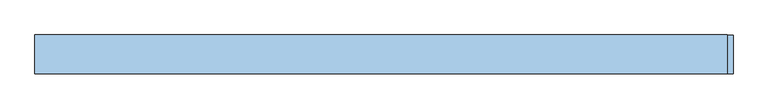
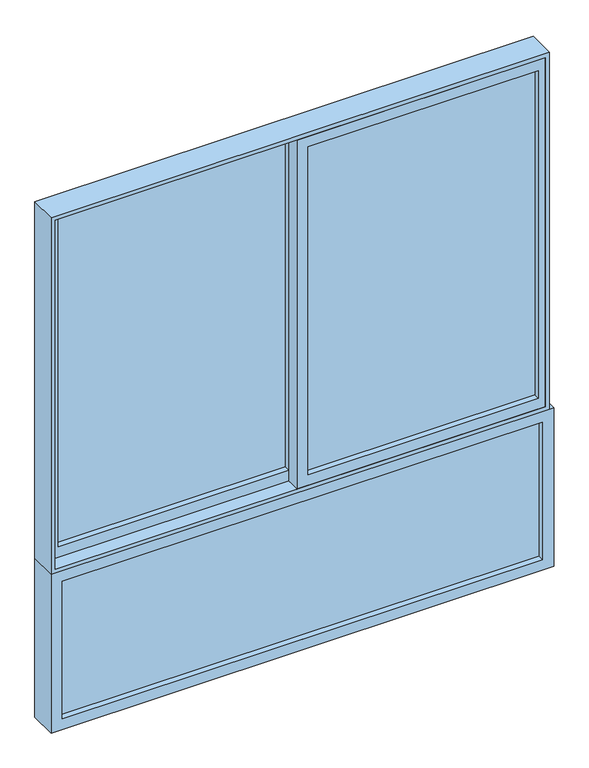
"""IFC4 building model written with IfcOpenShell, lengths in millimetres: window geometry, VENT_ALUM_CORR_2HOJAS_CORRE_1 FIJO ABAJO : V11-VENT_ALUM_CORR_2HOJAS_CORRE 1.0001."""

from ifc_helpers import new_model, si_unit, frame, origin, place, context, project, spatial, polyline, outline, extrude, source, transform, mapped, element, save


def window_36b55308(model_context):
    return source(origin(), model_context, "Body", "SweptSolid", [
        extrude(outline(polyline([(2250.0, -900.0), (900.0, -900.0), (900.0, 885.0), (2250.0, 885.0), (2250.0, -900.0)]), holes=[polyline([(915.0, -885.0), (2235.0, -885.0), (2235.0, 870.0), (915.0, 870.0), (915.0, -885.0)])]), frame((0.0, -50.0, 0.0), z_axis=(0.0, 1.0, 0.0), x_axis=(0.0, 0.0, 1.0)), (0.0, 0.0, 1.0), 100.0),
        extrude(outline(polyline([(-20.0, 28.0), (-20.0, 22.0), (-845.0, 22.0), (-845.0, 28.0), (-20.0, 28.0)])), frame((0.0, 0.0, 955.0), z_axis=(0.0, 0.0, 1.0), x_axis=(1.0, 0.0, 0.0)), (0.0, 0.0, 1.0), 1240.0),
        extrude(outline(polyline([(2235.0, -885.0), (915.0, -885.0), (915.0, 20.0), (2235.0, 20.0), (2235.0, -885.0)]), holes=[polyline([(955.0, -845.0), (2195.0, -845.0), (2195.0, -20.0), (955.0, -20.0), (955.0, -845.0)])]), frame((0.0, 0.0, 0.0), z_axis=(0.0, 1.0, 0.0), x_axis=(0.0, 0.0, 1.0)), (0.0, 0.0, 1.0), 50.0),
        extrude(outline(polyline([(20.0, -28.0), (20.0, -22.0), (845.0, -22.0), (845.0, -28.0), (20.0, -28.0)])), frame((0.0, 0.0, 955.0), z_axis=(0.0, 0.0, 1.0), x_axis=(1.0, 0.0, 0.0)), (0.0, 0.0, 1.0), 1240.0),
        extrude(outline(polyline([(2235.0, -20.0), (915.0, -20.0), (915.0, 885.0), (2235.0, 885.0), (2235.0, -20.0)]), holes=[polyline([(955.0, 20.0), (2195.0, 20.0), (2195.0, 845.0), (955.0, 845.0), (955.0, 20.0)])]), frame((0.0, -50.0, 0.0), z_axis=(0.0, 1.0, 0.0), x_axis=(0.0, 0.0, 1.0)), (0.0, 0.0, 1.0), 50.0),
        extrude(outline(polyline([(-860.0, -28.0), (-860.0, -22.0), (860.0, -22.0), (860.0, -28.0), (-860.0, -28.0)])), frame((0.0, 0.0, 340.0), z_axis=(0.0, 0.0, 1.0), x_axis=(1.0, 0.0, 0.0)), (0.0, 0.0, 1.0), 520.0),
        extrude(outline(polyline([(900.0, -900.0), (300.0, -900.0), (300.0, 900.0), (900.0, 900.0), (900.0, -900.0)]), holes=[polyline([(340.0, -860.0), (860.0, -860.0), (860.0, 860.0), (340.0, 860.0), (340.0, -860.0)])]), frame((0.0, -50.0, 0.0), z_axis=(0.0, 1.0, 0.0), x_axis=(0.0, 0.0, 1.0)), (0.0, 0.0, 1.0), 100.0),
    ])


if __name__ == "__main__":
    model = new_model("IFC4")
    model_context = context("Model", 3, world=origin())
    ifc_project = project(units=[si_unit("LENGTHUNIT", "METRE", prefix="MILLI")], contexts=[model_context])
    site = spatial("IfcSite", under=ifc_project)
    building = spatial("IfcBuilding", under=site)
    placement = place(None, origin())
    window_shape = window_36b55308(model_context)
    element("IfcWindow", 1, ObjectType="VENT_ALUM_CORR_2HOJAS_CORRE_1 FIJO ABAJO : V11-VENT_ALUM_CORR_2HOJAS_CORRE 1.0001", at=placement, inside=building, context=model_context, shape_type="MappedRepresentation", body=[
        mapped(window_shape, transform((0.0, 0.0, 0.0), x_axis=(1.0, 0.0, 0.0), y_axis=(0.0, 1.0, 0.0), z_axis=(0.0, 0.0, 1.0))),
    ])
    save(model, "model.ifc")
